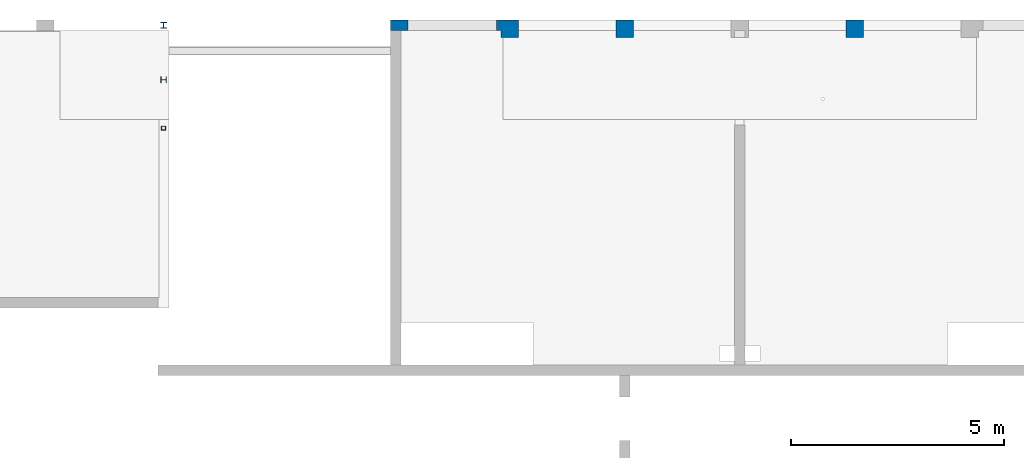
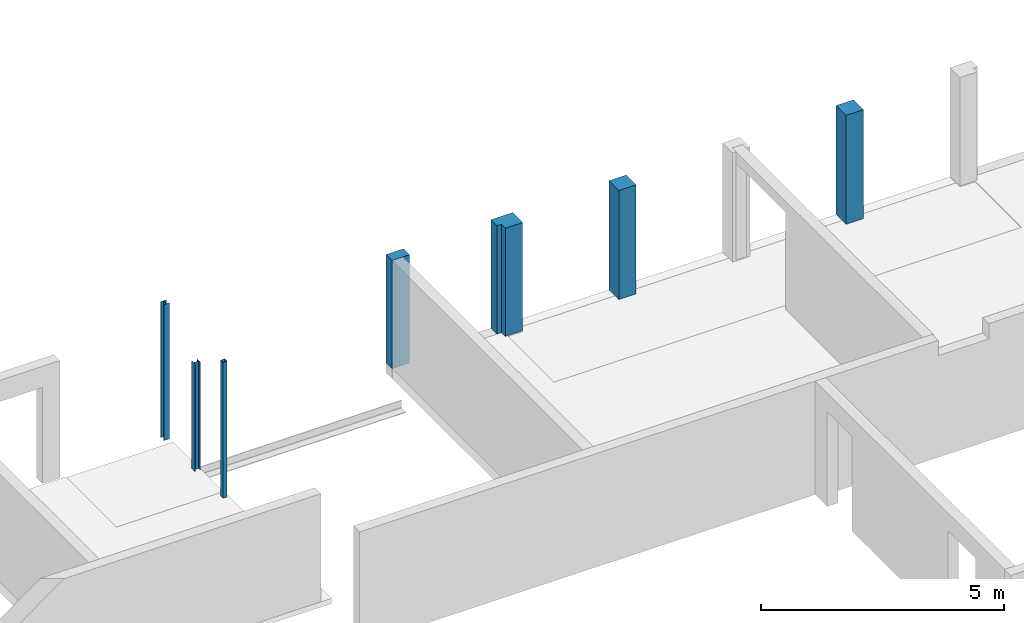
# One storey, part 7 of 22: 7 columns.
"""IFC2X3 building model written with IfcOpenShell, lengths in millimetres."""

from ifc_helpers import new_model, entity, si_unit, converted_unit, derived_unit, direction, frame, frame_2d, origin, origin_2d_with_axis, place, context, subcontext, project, spatial, polyline, circle_curve, parameter, trimmed, segment, composite_curve, rectangle, i_section, outline, extrude, source, transform, mapped, material, type_object, type_shapes, element, save


model = new_model("IFC2X3")

# Units and contexts
model_context = context("Model", 3, precision=0.01, world=origin(), true_north=direction((6.12303176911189e-17, 1.0)))
body_context = subcontext(model_context, "Body", "Model", "MODEL_VIEW")
ifc_project = project(units=[si_unit("LENGTHUNIT", "METRE", prefix="MILLI"), si_unit("AREAUNIT", "SQUARE_METRE"), si_unit("VOLUMEUNIT", "CUBIC_METRE"), converted_unit("PLANEANGLEUNIT", "DEGREE", entity("IfcRatioMeasure", 0.0174532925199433), si_unit("PLANEANGLEUNIT", "RADIAN"), dimensions=[0, 0, 0, 0, 0, 0, 0]), si_unit("MASSUNIT", "GRAM", prefix="KILO"), derived_unit("MASSDENSITYUNIT", [(si_unit("MASSUNIT", "GRAM", prefix="KILO"), 1), (si_unit("LENGTHUNIT", "METRE"), -3)]), si_unit("TIMEUNIT", "SECOND"), si_unit("FREQUENCYUNIT", "HERTZ"), si_unit("THERMODYNAMICTEMPERATUREUNIT", "DEGREE_CELSIUS"), derived_unit("THERMALTRANSMITTANCEUNIT", [(si_unit("MASSUNIT", "GRAM", prefix="KILO"), 1), (si_unit("THERMODYNAMICTEMPERATUREUNIT", "KELVIN"), -1), (si_unit("TIMEUNIT", "SECOND"), -3)]), derived_unit("VOLUMETRICFLOWRATEUNIT", [(si_unit("LENGTHUNIT", "METRE"), 3), (si_unit("TIMEUNIT", "SECOND"), -1)]), si_unit("ELECTRICCURRENTUNIT", "AMPERE"), si_unit("ELECTRICVOLTAGEUNIT", "VOLT"), si_unit("POWERUNIT", "WATT"), si_unit("FORCEUNIT", "NEWTON", prefix="KILO"), si_unit("ILLUMINANCEUNIT", "LUX"), si_unit("LUMINOUSFLUXUNIT", "LUMEN"), si_unit("LUMINOUSINTENSITYUNIT", "CANDELA"), derived_unit("USERDEFINED", [(si_unit("MASSUNIT", "GRAM", prefix="KILO"), -1), (si_unit("LENGTHUNIT", "METRE"), -2), (si_unit("TIMEUNIT", "SECOND"), 3), (si_unit("LUMINOUSFLUXUNIT", "LUMEN"), 1)]), derived_unit("LINEARVELOCITYUNIT", [(si_unit("LENGTHUNIT", "METRE"), 1), (si_unit("TIMEUNIT", "SECOND"), -1)]), si_unit("PRESSUREUNIT", "PASCAL"), derived_unit("USERDEFINED", [(si_unit("LENGTHUNIT", "METRE"), -2), (si_unit("MASSUNIT", "GRAM", prefix="KILO"), 1), (si_unit("TIMEUNIT", "SECOND"), -2)])], contexts=[model_context])

# Site, building, storey
site_placement = place(None, origin())
site = spatial("IfcSite", under=ifc_project, at=site_placement, Name="Default", CompositionType="ELEMENT")
building_placement = place(site_placement, origin())
building = spatial("IfcBuilding", under=site, at=building_placement, Name="niet gebruiken", CompositionType="ELEMENT")
storey_placement = place(building_placement, frame((0.0, 0.0, 9630.0)))
storey = spatial("IfcBuildingStorey", under=building, at=storey_placement, Name="03 derde verdieping", CompositionType="ELEMENT", Elevation=9630.00000000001)

# Columns
ifc_material_1 = material(Name="NLRS_f2_beton ihwg")
column_type_1 = type_object("IfcColumnType", Name="410x410", PredefinedType="COLUMN", material=ifc_material_1)
shared_shape_1 = source(origin(), body_context, "Body", "SweptSolid", [
    extrude(rectangle(XDim=410.000000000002, YDim=409.999999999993, at=origin_2d_with_axis()), frame((91800.0, 53051.0, 9520.0), z_axis=(0.0, 0.0, 1.0), x_axis=(0.0, -1.0, 0.0)), (0.0, 0.0, 1.0), 2740.0),
])
type_shapes(column_type_1, [shared_shape_1])
column_1_placement = place(storey_placement, frame((0.0, 0.0, -9630.0)))
element("IfcColumn", 1, at=column_1_placement, inside=storey, type_object=column_type_1, material=ifc_material_1, Name="NLRS_28.11_SCO_TLB_beton kolom ihwg_gen:410x410", ObjectType="410x410", context=body_context, shape_type="MappedRepresentation", body=[
    mapped(shared_shape_1, transform((0.0, 0.0, 0.0), scale=1.0)),
])
column_type_2 = type_object("IfcColumnType", Name="410x410", PredefinedType="COLUMN", material=ifc_material_1)
shared_shape_2 = source(origin(), body_context, "Body", "SweptSolid", [
    extrude(rectangle(XDim=410.000000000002, YDim=409.999999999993, at=origin_2d_with_axis()), frame((86400.0, 53051.0, 9520.0), z_axis=(0.0, 0.0, 1.0), x_axis=(0.0, -1.0, 0.0)), (0.0, 0.0, 1.0), 2740.0),
])
type_shapes(column_type_2, [shared_shape_2])
column_2_placement = place(storey_placement, frame((0.0, 0.0, -9630.0)))
element("IfcColumn", 2, at=column_2_placement, inside=storey, type_object=column_type_2, material=ifc_material_1, Name="NLRS_28.11_SCO_TLB_beton kolom ihwg_gen:410x410", ObjectType="410x410", context=body_context, shape_type="MappedRepresentation", body=[
    mapped(shared_shape_2, transform((0.0, 0.0, 0.0), scale=1.0)),
])
column_type_3 = type_object("IfcColumnType", Name="410x250", PredefinedType="COLUMN", material=ifc_material_1)
shared_shape_3 = source(origin(), body_context, "Body", "SweptSolid", [
    extrude(rectangle(XDim=250.000000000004, YDim=409.999999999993, at=origin_2d_with_axis()), frame((81105.0, 53131.0, 9540.0), z_axis=(0.0, 0.0, 1.0), x_axis=(0.0, -1.0, 0.0)), (0.0, 0.0, 1.0), 2720.0),
])
type_shapes(column_type_3, [shared_shape_3])
column_3_placement = place(storey_placement, frame((0.0, 0.0, -9630.0)))
element("IfcColumn", 3, at=column_3_placement, inside=storey, type_object=column_type_3, material=ifc_material_1, Name="NLRS_28.11_SCO_TLB_beton kolom ihwg_gen:410x250", ObjectType="410x250", context=body_context, shape_type="MappedRepresentation", body=[
    mapped(shared_shape_3, transform((0.0, 0.0, 0.0), scale=1.0)),
])
column_type_4 = type_object("IfcColumnType", Name="515x410/105x160", PredefinedType="COLUMN", material=ifc_material_1)
shared_shape_4 = source(origin(), body_context, "Body", "SweptSolid", [
    extrude(outline(polyline([(-220.0, -206.666666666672), (30.0, -206.666666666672), (30.0, -101.666666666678), (190.0, -101.666666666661), (190.0, 308.333333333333), (-220.0, 308.333333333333), (-220.0, -206.666666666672)])), frame((83596.6666666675, 53036.0, 9540.0), z_axis=(0.0, 0.0, 1.0), x_axis=(0.0, -1.0, 0.0)), (0.0, 0.0, 1.0), 2720.0),
])
type_shapes(column_type_4, [shared_shape_4])
column_4_placement = place(storey_placement, frame((0.0, 0.0, -9630.0)))
element("IfcColumn", 4, at=column_4_placement, inside=storey, type_object=column_type_4, material=ifc_material_1, Name="NLRS_28.11_SCO_TLB_beton kolom ihwg enkele sponning_gen:515x410/105x160", ObjectType="515x410/105x160", context=body_context, shape_type="MappedRepresentation", body=[
    mapped(shared_shape_4, transform((0.0, 0.0, 0.0), scale=1.0)),
])
ifc_material_2 = material(Name="NLRS_h2_staal")
column_type_5 = type_object("IfcColumnType", Name="kolom HEA 140", PredefinedType="COLUMN", material=ifc_material_2)
shared_shape_5 = source(origin(), body_context, "Body", "SweptSolid", [
    extrude(outline(composite_curve([segment(polyline([(58.0, -70.0), (66.4999999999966, -70.0)]), True, "CONTINUOUS"), segment(polyline([(66.4999999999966, -70.0), (66.4999999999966, 70.0)]), True, "CONTINUOUS"), segment(polyline([(66.4999999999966, 70.0), (58.0, 70.0)]), True, "CONTINUOUS"), segment(polyline([(58.0, 70.0), (58.0, 14.7499999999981)]), True, "CONTINUOUS"), segment(trimmed(circle_curve(frame_2d((46.0, 14.7499999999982), x_axis=(1.0, 0.0)), 12.0), [parameter(270.0)], [parameter(0.0)], True, "PARAMETER"), False, "CONTINUOUS"), segment(polyline([(46.0, 2.74999999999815), (-46.0, 2.74999999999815)]), True, "CONTINUOUS"), segment(trimmed(circle_curve(frame_2d((-46.0, 14.7499999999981), x_axis=(0.0, -1.0)), 12.0), [parameter(270.0)], [parameter(0.0)], True, "PARAMETER"), False, "CONTINUOUS"), segment(polyline([(-58.0, 14.7499999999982), (-58.0, 70.0)]), True, "CONTINUOUS"), segment(polyline([(-58.0, 70.0), (-66.4999999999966, 70.0)]), True, "CONTINUOUS"), segment(polyline([(-66.4999999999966, 70.0), (-66.4999999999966, -70.0)]), True, "CONTINUOUS"), segment(polyline([(-66.4999999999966, -70.0), (-58.0, -70.0)]), True, "CONTINUOUS"), segment(polyline([(-58.0, -70.0), (-58.0, -14.7500000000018)]), True, "CONTINUOUS"), segment(trimmed(circle_curve(frame_2d((-46.0, -14.7500000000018), x_axis=(-1.0, 0.0)), 12.0), [parameter(270.0)], [parameter(0.0)], True, "PARAMETER"), False, "CONTINUOUS"), segment(polyline([(-46.0, -2.75000000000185), (46.0, -2.75000000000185)]), True, "CONTINUOUS"), segment(trimmed(circle_curve(frame_2d((46.0, -14.7500000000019), x_axis=(0.0, 1.0)), 12.0), [parameter(270.0)], [parameter(0.0)], True, "PARAMETER"), False, "CONTINUOUS"), segment(polyline([(58.0, -14.7500000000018), (58.0, -70.0)]), True, "CONTINUOUS")], self_intersect=False)), frame((0.0, 0.0, 9585.0), z_axis=(0.0, 0.0, 1.0), x_axis=(0.0, -1.0, 0.0)), (0.0, 0.0, 1.0), 3415.0),
])
type_shapes(column_type_5, [shared_shape_5])
column_5_placement = place(storey_placement, frame((75575.0, 53131.0, -9630.0), z_axis=(0.0, 0.0, 1.0), x_axis=(-1.0, 0.0, 0.0)))
element("IfcColumn", 5, at=column_5_placement, inside=storey, type_object=column_type_5, material=ifc_material_2, Name="NLRS_28.11_SCO_TLB_stalen kolom HEA_gen:kolom HEA 140", ObjectType="kolom HEA 140", context=body_context, shape_type="MappedRepresentation", body=[
    mapped(shared_shape_5, transform((0.0, 0.0, 0.0), scale=1.0)),
])
column_type_6 = type_object("IfcColumnType", Name="kolom buisprofiel warmgevormd vierkant SHSH_100x100x8", PredefinedType="COLUMN", material=ifc_material_2)
shared_shape_6 = source(origin(), body_context, "Body", "SweptSolid", [
    extrude(outline(polyline([(-50.0, -50.0), (50.0, -50.0), (50.0, 50.0), (-50.0, 50.0), (-50.0, -50.0)]), holes=[composite_curve([segment(trimmed(circle_curve(frame_2d((-34.0, -34.0), x_axis=(0.0, 1.0)), 8.0), [parameter(90.0000000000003)], [parameter(180.0)], True, "PARAMETER"), False, "CONTINUOUS"), segment(polyline([(-42.0, -34.0), (-42.0, 34.0)]), True, "CONTINUOUS"), segment(trimmed(circle_curve(frame_2d((-34.0, 34.0), x_axis=(0.0, 1.0)), 8.0), [parameter(360.0)], [parameter(89.9999999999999)], True, "PARAMETER"), False, "CONTINUOUS"), segment(polyline([(-34.0, 42.0), (34.0, 42.0)]), True, "CONTINUOUS"), segment(trimmed(circle_curve(frame_2d((34.0, 34.0), x_axis=(0.0, 1.0)), 8.0), [parameter(270.0)], [parameter(360.0)], True, "PARAMETER"), False, "CONTINUOUS"), segment(polyline([(42.0, 34.0), (42.0, -34.0)]), True, "CONTINUOUS"), segment(trimmed(circle_curve(frame_2d((34.0, -34.0), x_axis=(0.0, 1.0)), 8.0), [parameter(180.0)], [parameter(270.0)], True, "PARAMETER"), False, "CONTINUOUS"), segment(polyline([(34.0, -42.0), (-34.0, -42.0)]), True, "CONTINUOUS")], self_intersect=False)]), frame((0.0, 0.0, 9585.0), z_axis=(0.0, 0.0, 1.0), x_axis=(0.0, -1.0, 0.0)), (0.0, 0.0, 1.0), 3415.0),
])
type_shapes(column_type_6, [shared_shape_6])
column_6_placement = place(storey_placement, frame((75575.0, 50716.0007019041, -9630.0), z_axis=(0.0, 0.0, 1.0), x_axis=(-1.0, 0.0, 0.0)))
element("IfcColumn", 6, at=column_6_placement, inside=storey, type_object=column_type_6, material=ifc_material_2, Name="NLRS_28.11_SCO_TLB_stalen kolom buisprofiel warmgevormd vierkant_gen:kolom buisprofiel warmgevormd vierkant SHSH_100x100x8", ObjectType="kolom buisprofiel warmgevormd vierkant SHSH_100x100x8", context=body_context, shape_type="MappedRepresentation", body=[
    mapped(shared_shape_6, transform((0.0, 0.0, 0.0), scale=1.0)),
])
column_type_7 = type_object("IfcColumnType", Name="kolom HEA 140", PredefinedType="COLUMN", material=ifc_material_2)
shared_shape_7 = source(origin(), body_context, "Body", "SweptSolid", [
    extrude(i_section(OverallWidth=140.000000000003, OverallDepth=132.999999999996, WebThickness=5.49999999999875, FlangeThickness=8.49999999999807, FilletRadius=11.999999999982, at=frame_2d((-1.29958266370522e-11, 1.29958266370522e-11), x_axis=(1.0, 0.0))), frame((75575.0, 51853.5009765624, 9585.0), z_axis=(0.0, 0.0, 1.0), x_axis=(0.0, -1.0, 0.0)), (0.0, 0.0, 1.0), 2695.0),
])
type_shapes(column_type_7, [shared_shape_7])
column_7_placement = place(storey_placement, frame((0.0, 0.0, -9630.0)))
element("IfcColumn", 7, at=column_7_placement, inside=storey, type_object=column_type_7, material=ifc_material_2, Name="NLRS_28.11_SCO_TLB_stalen kolom HEA_gen:kolom HEA 140", ObjectType="kolom HEA 140", context=body_context, shape_type="MappedRepresentation", body=[
    mapped(shared_shape_7, transform((0.0, 0.0, 0.0), scale=1.0)),
])

save(model, "model.ifc")
